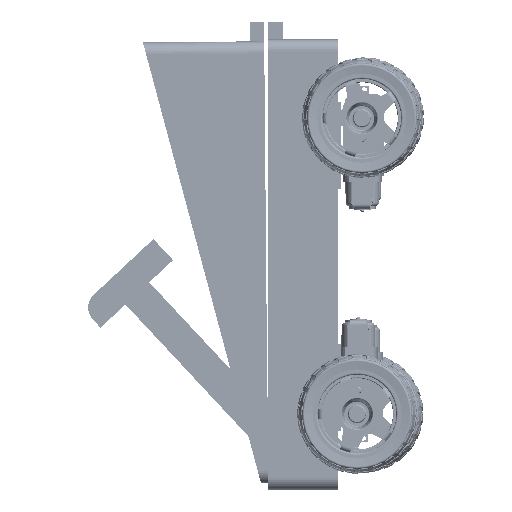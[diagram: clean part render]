
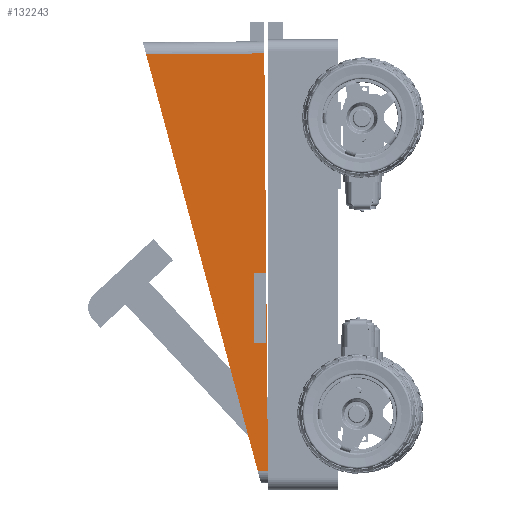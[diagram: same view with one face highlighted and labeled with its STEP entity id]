
A CAD part, left-side view. The second image highlights one B-rep face of the part: STEP entity #132243.
In plain terms, the highlighted planar face has unit normal (-1, 0, 0).
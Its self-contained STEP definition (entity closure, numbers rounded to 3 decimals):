
#3129=FACE_BOUND('',#40665,.T.);
#8798=LINE('',#189412,#19403);
#9664=LINE('',#195763,#20269);
#9665=LINE('',#195766,#20270);
#9666=LINE('',#195767,#20271);
#9667=LINE('',#195770,#20272);
#9668=LINE('',#195772,#20273);
#9669=LINE('',#195774,#20274);
#9670=LINE('',#195775,#20275);
#19403=VECTOR('',#153665,10.);
#20269=VECTOR('',#155081,10.);
#20270=VECTOR('',#155084,10.);
#20271=VECTOR('',#155085,10.);
#20272=VECTOR('',#155086,10.);
#20273=VECTOR('',#155087,10.);
#20274=VECTOR('',#155088,10.);
#20275=VECTOR('',#155089,10.);
#32395=FACE_OUTER_BOUND('',#40664,.T.);
#40664=EDGE_LOOP('',(#90811,#90812,#90813,#90814));
#40665=EDGE_LOOP('',(#90815,#90816,#90817,#90818));
#54525=VERTEX_POINT('',#189409);
#54526=VERTEX_POINT('',#189411);
#55396=VERTEX_POINT('',#195761);
#55397=VERTEX_POINT('',#195765);
#55398=VERTEX_POINT('',#195768);
#55399=VERTEX_POINT('',#195769);
#55400=VERTEX_POINT('',#195771);
#55401=VERTEX_POINT('',#195773);
#67514=EDGE_CURVE('',#54525,#54526,#8798,.T.);
#68820=EDGE_CURVE('',#55396,#54525,#9664,.T.);
#68821=EDGE_CURVE('',#55397,#55396,#9665,.T.);
#68822=EDGE_CURVE('',#54526,#55397,#9666,.T.);
#68823=EDGE_CURVE('',#55398,#55399,#9667,.T.);
#68824=EDGE_CURVE('',#55399,#55400,#9668,.T.);
#68825=EDGE_CURVE('',#55400,#55401,#9669,.T.);
#68826=EDGE_CURVE('',#55401,#55398,#9670,.T.);
#90811=ORIENTED_EDGE('',*,*,#68820,.F.);
#90812=ORIENTED_EDGE('',*,*,#68821,.F.);
#90813=ORIENTED_EDGE('',*,*,#68822,.F.);
#90814=ORIENTED_EDGE('',*,*,#67514,.F.);
#90815=ORIENTED_EDGE('',*,*,#68823,.T.);
#90816=ORIENTED_EDGE('',*,*,#68824,.T.);
#90817=ORIENTED_EDGE('',*,*,#68825,.T.);
#90818=ORIENTED_EDGE('',*,*,#68826,.T.);
#128656=PLANE('',#140865);
#132243=ADVANCED_FACE('',(#32395,#3129),#128656,.T.);
#140865=AXIS2_PLACEMENT_3D('',#195764,#155082,#155083);
#153665=DIRECTION('',(0.,0.259,0.966));
#155081=DIRECTION('',(0.,1.,-0.009));
#155082=DIRECTION('center_axis',(-1.,0.,0.));
#155083=DIRECTION('ref_axis',(0.,0.009,
1.));
#155084=DIRECTION('',(0.,-0.009,-1.));
#155085=DIRECTION('',(0.,-1.,0.009));
#155086=DIRECTION('',(0.,0.,1.));
#155087=DIRECTION('',(0.,-1.,0.));
#155088=DIRECTION('',(0.,0.,-1.));
#155089=DIRECTION('',(0.,1.,0.));
#189409=CARTESIAN_POINT('',(-29.741,106.029,-69.152));
#189411=CARTESIAN_POINT('',(-29.741,170.457,171.295));
#189412=CARTESIAN_POINT('',(-29.741,121.612,-10.996));
#195761=CARTESIAN_POINT('',(-29.741,100.166,-69.101));
#195763=CARTESIAN_POINT('',(-29.741,100.166,-69.101));
#195764=CARTESIAN_POINT('Origin',(-29.741,100.105,-76.101));
#195765=CARTESIAN_POINT('',(-29.741,102.27,171.89));
#195766=CARTESIAN_POINT('',(-29.741,102.331,178.89));
#195767=CARTESIAN_POINT('',(-29.741,102.27,171.89));
#195768=CARTESIAN_POINT('',(-29.741,108.,4.856));
#195769=CARTESIAN_POINT('',(-29.741,108.,45.));
#195770=CARTESIAN_POINT('',(-29.741,108.,-15.55));
#195771=CARTESIAN_POINT('',(-29.741,101.218,45.));
#195772=CARTESIAN_POINT('',(-29.741,100.662,45.));
#195773=CARTESIAN_POINT('',(-29.741,101.218,4.856));
#195774=CARTESIAN_POINT('',(-29.741,101.218,-35.622));
#195775=CARTESIAN_POINT('',(-29.741,104.053,4.856));
